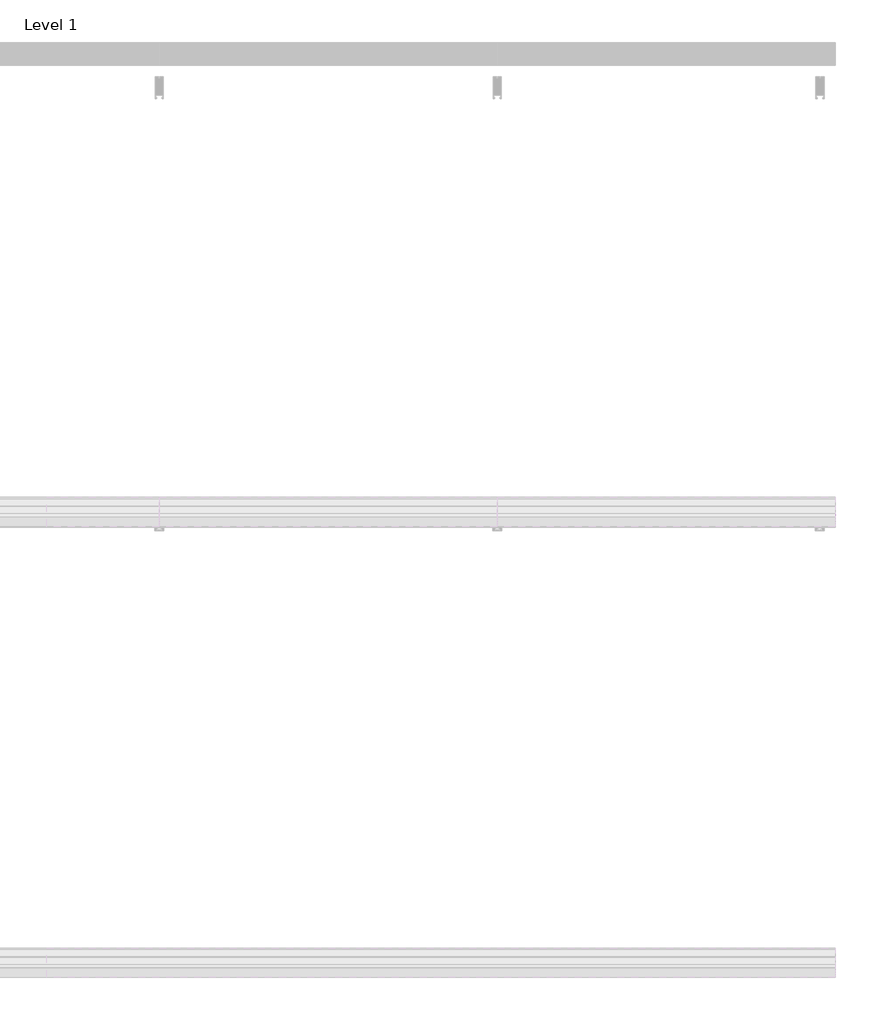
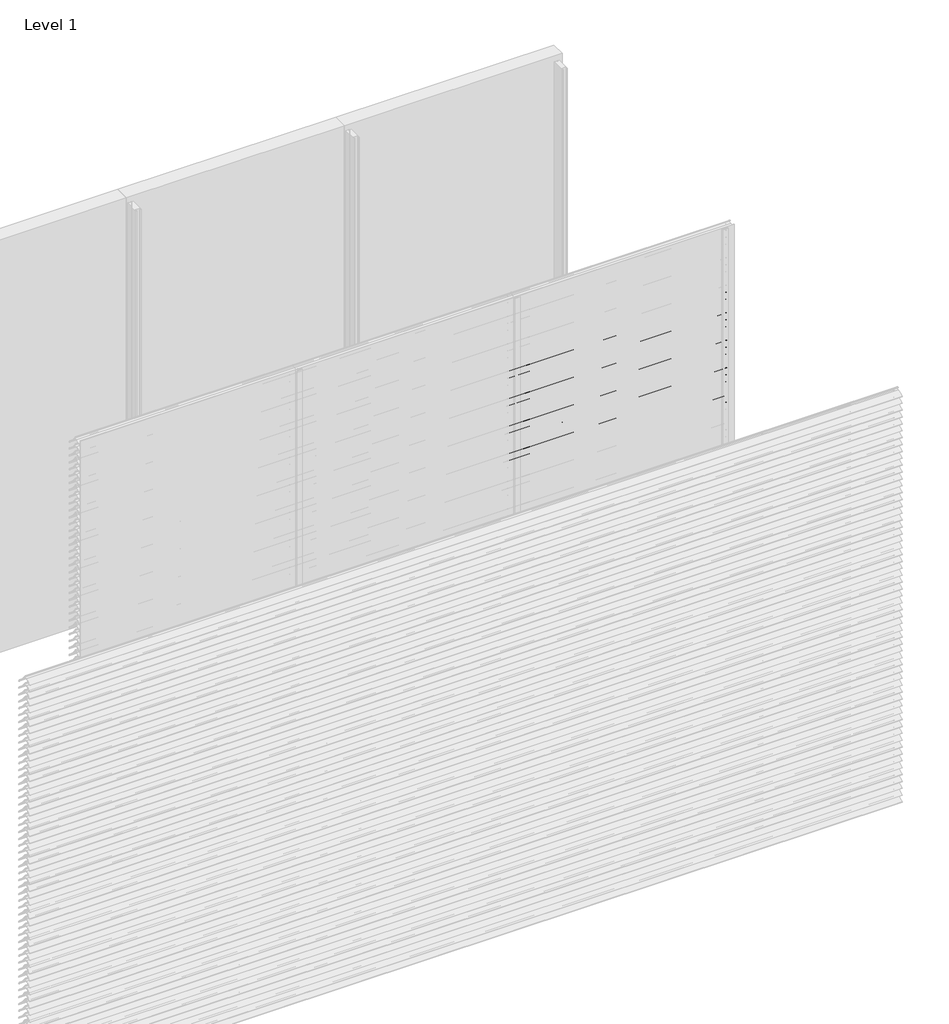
# One storey, part 103 of 173: 17 proxies.
"""IFC4 building model written with IfcOpenShell, lengths in millimetres."""

from ifc_helpers import new_model, si_unit, point, frame, frame_2d, origin, place, context, project, spatial, polyline, circle_curve, trimmed, segment, composite_curve, outline, extrude, element, save

model = new_model("IFC4")

# Units and contexts
model_context = context("Model", 3, world=origin())
ifc_project = project(units=[si_unit("LENGTHUNIT", "METRE", prefix="MILLI")], contexts=[model_context])

# Site, building, storey
site = spatial("IfcSite", under=ifc_project)
building = spatial("IfcBuilding", under=site)
storey = spatial("IfcBuildingStorey", under=building, Name="Level 1", Elevation=0.0)

# Proxies
placement = place(None, origin())
element("IfcBuildingElementProxy", 1, Name="Wall Sweeps", at=placement, inside=storey, context=model_context, shape_type="SweptSolid", body=[
    extrude(outline(composite_curve([segment(polyline([(-23998.0, 2459.1474905), (-23998.0, 2461.6227417)]), True, "CONTINUOUS"), segment(trimmed(circle_curve(frame_2d((-23951.2682172, 2416.2200208)), 65.1557103), [point((-23998.0, 2461.6227417))], [point((-23954.4014323, 2481.3003524))], False, "CARTESIAN"), True, "CONTINUOUS"), segment(polyline([(-23954.4014323, 2481.3003524), (-23934.8315836, 2481.3003524)]), True, "CONTINUOUS"), segment(trimmed(circle_curve(frame_2d((-23732.7329489, 2628.5533172)), 250.0545817), [point((-23934.8315836, 2481.3003524))], [point((-23941.4452143, 2490.8344583))], False, "CARTESIAN"), True, "CONTINUOUS"), segment(trimmed(circle_curve(frame_2d((-23953.2981792, 2485.1737835)), 13.1352966), [point((-23941.4452143, 2490.8344583))], [point((-23953.8171475, 2498.298824))], True, "CARTESIAN"), True, "CONTINUOUS"), segment(polyline([(-23953.8171475, 2498.298824), (-23953.8171475, 2500.0)]), True, "CONTINUOUS"), segment(trimmed(circle_curve(frame_2d((-23953.2981792, 2485.1737835)), 14.8352966), [point((-23953.8171475, 2500.0))], [point((-23939.9637661, 2491.6760487))], False, "CARTESIAN"), True, "CONTINUOUS"), segment(trimmed(circle_curve(frame_2d((-23732.7329489, 2628.5533172)), 248.3545817), [point((-23939.9637661, 2491.6760487))], [point((-23873.8787895, 2424.2059416))], True, "CARTESIAN"), True, "CONTINUOUS"), segment(trimmed(circle_curve(frame_2d((-23883.8147537, 2411.6649442)), 16.0), [point((-23873.8787895, 2424.2059416))], [point((-23867.8648347, 2410.4))], False, "CARTESIAN"), True, "CONTINUOUS"), segment(polyline([(-23867.8648347, 2410.4), (-23869.6712069, 2410.4)]), True, "CONTINUOUS"), segment(trimmed(circle_curve(frame_2d((-23883.8147537, 2411.6649442)), 14.2), [point((-23869.6712069, 2410.4))], [point((-23874.9518628, 2422.7594998))], True, "CARTESIAN"), True, "CONTINUOUS"), segment(trimmed(circle_curve(frame_2d((-23732.7329489, 2628.5533172)), 250.1545817), [point((-23874.9518628, 2422.7594998))], [point((-23933.7064024, 2479.6003524))], False, "CARTESIAN"), True, "CONTINUOUS"), segment(polyline([(-23933.7064024, 2479.6003524), (-23954.3602632, 2479.6003524)]), True, "CONTINUOUS"), segment(trimmed(circle_curve(frame_2d((-23951.2682172, 2416.2200208)), 63.4557103), [point((-23954.3602632, 2479.6003524))], [point((-23998.0, 2459.1474905))], True, "CARTESIAN"), True, "CONTINUOUS")], self_intersect=False)), frame((4500.0, 0.0, 0.0), z_axis=(1.0, 0.0, 0.0), x_axis=(0.0, 1.0, 0.0)), (0.0, 0.0, 1.0), 1500.0),
])
element("IfcBuildingElementProxy", 2, Name="Wall Sweeps", at=placement, inside=storey, context=model_context, shape_type="SweptSolid", body=[
    extrude(outline(composite_curve([segment(polyline([(-23998.0, 2409.1474905), (-23998.0, 2411.6227417)]), True, "CONTINUOUS"), segment(trimmed(circle_curve(frame_2d((-23951.2682172, 2366.2200208)), 65.1557103), [point((-23998.0, 2411.6227417))], [point((-23954.4014323, 2431.3003524))], False, "CARTESIAN"), True, "CONTINUOUS"), segment(polyline([(-23954.4014323, 2431.3003524), (-23934.8315836, 2431.3003524)]), True, "CONTINUOUS"), segment(trimmed(circle_curve(frame_2d((-23732.7329489, 2578.5533172)), 250.0545817), [point((-23934.8315836, 2431.3003524))], [point((-23941.4452143, 2440.8344583))], False, "CARTESIAN"), True, "CONTINUOUS"), segment(trimmed(circle_curve(frame_2d((-23953.2981792, 2435.1737835)), 13.1352966), [point((-23941.4452143, 2440.8344583))], [point((-23953.8171475, 2448.298824))], True, "CARTESIAN"), True, "CONTINUOUS"), segment(polyline([(-23953.8171475, 2448.298824), (-23953.8171475, 2450.0)]), True, "CONTINUOUS"), segment(trimmed(circle_curve(frame_2d((-23953.2981792, 2435.1737835)), 14.8352966), [point((-23953.8171475, 2450.0))], [point((-23939.9637661, 2441.6760487))], False, "CARTESIAN"), True, "CONTINUOUS"), segment(trimmed(circle_curve(frame_2d((-23732.7329489, 2578.5533172)), 248.3545817), [point((-23939.9637661, 2441.6760487))], [point((-23873.8787895, 2374.2059416))], True, "CARTESIAN"), True, "CONTINUOUS"), segment(trimmed(circle_curve(frame_2d((-23883.8147537, 2361.6649442)), 16.0), [point((-23873.8787895, 2374.2059416))], [point((-23867.8648347, 2360.4))], False, "CARTESIAN"), True, "CONTINUOUS"), segment(polyline([(-23867.8648347, 2360.4), (-23869.6712069, 2360.4)]), True, "CONTINUOUS"), segment(trimmed(circle_curve(frame_2d((-23883.8147537, 2361.6649442)), 14.2), [point((-23869.6712069, 2360.4))], [point((-23874.9518628, 2372.7594998))], True, "CARTESIAN"), True, "CONTINUOUS"), segment(trimmed(circle_curve(frame_2d((-23732.7329489, 2578.5533172)), 250.1545817), [point((-23874.9518628, 2372.7594998))], [point((-23933.7064024, 2429.6003524))], False, "CARTESIAN"), True, "CONTINUOUS"), segment(polyline([(-23933.7064024, 2429.6003524), (-23954.3602632, 2429.6003524)]), True, "CONTINUOUS"), segment(trimmed(circle_curve(frame_2d((-23951.2682172, 2366.2200208)), 63.4557103), [point((-23954.3602632, 2429.6003524))], [point((-23998.0, 2409.1474905))], True, "CARTESIAN"), True, "CONTINUOUS")], self_intersect=False)), frame((4500.0, 0.0, 0.0), z_axis=(1.0, 0.0, 0.0), x_axis=(0.0, 1.0, 0.0)), (0.0, 0.0, 1.0), 1500.0),
])
element("IfcBuildingElementProxy", 3, Name="Wall Sweeps", at=placement, inside=storey, context=model_context, shape_type="SweptSolid", body=[
    extrude(outline(composite_curve([segment(polyline([(-23998.0, 2359.1474905), (-23998.0, 2361.6227417)]), True, "CONTINUOUS"), segment(trimmed(circle_curve(frame_2d((-23951.2682172, 2316.2200208)), 65.1557103), [point((-23998.0, 2361.6227417))], [point((-23954.4014323, 2381.3003524))], False, "CARTESIAN"), True, "CONTINUOUS"), segment(polyline([(-23954.4014323, 2381.3003524), (-23934.8315836, 2381.3003524)]), True, "CONTINUOUS"), segment(trimmed(circle_curve(frame_2d((-23732.7329489, 2528.5533172)), 250.0545817), [point((-23934.8315836, 2381.3003524))], [point((-23941.4452143, 2390.8344583))], False, "CARTESIAN"), True, "CONTINUOUS"), segment(trimmed(circle_curve(frame_2d((-23953.2981792, 2385.1737835)), 13.1352966), [point((-23941.4452143, 2390.8344583))], [point((-23953.8171475, 2398.298824))], True, "CARTESIAN"), True, "CONTINUOUS"), segment(polyline([(-23953.8171475, 2398.298824), (-23953.8171475, 2400.0)]), True, "CONTINUOUS"), segment(trimmed(circle_curve(frame_2d((-23953.2981792, 2385.1737835)), 14.8352966), [point((-23953.8171475, 2400.0))], [point((-23939.9637661, 2391.6760487))], False, "CARTESIAN"), True, "CONTINUOUS"), segment(trimmed(circle_curve(frame_2d((-23732.7329489, 2528.5533172)), 248.3545817), [point((-23939.9637661, 2391.6760487))], [point((-23873.8787895, 2324.2059416))], True, "CARTESIAN"), True, "CONTINUOUS"), segment(trimmed(circle_curve(frame_2d((-23883.8147537, 2311.6649442)), 16.0), [point((-23873.8787895, 2324.2059416))], [point((-23867.8648347, 2310.4))], False, "CARTESIAN"), True, "CONTINUOUS"), segment(polyline([(-23867.8648347, 2310.4), (-23869.6712069, 2310.4)]), True, "CONTINUOUS"), segment(trimmed(circle_curve(frame_2d((-23883.8147537, 2311.6649442)), 14.2), [point((-23869.6712069, 2310.4))], [point((-23874.9518628, 2322.7594998))], True, "CARTESIAN"), True, "CONTINUOUS"), segment(trimmed(circle_curve(frame_2d((-23732.7329489, 2528.5533172)), 250.1545817), [point((-23874.9518628, 2322.7594998))], [point((-23933.7064024, 2379.6003524))], False, "CARTESIAN"), True, "CONTINUOUS"), segment(polyline([(-23933.7064024, 2379.6003524), (-23954.3602632, 2379.6003524)]), True, "CONTINUOUS"), segment(trimmed(circle_curve(frame_2d((-23951.2682172, 2316.2200208)), 63.4557103), [point((-23954.3602632, 2379.6003524))], [point((-23998.0, 2359.1474905))], True, "CARTESIAN"), True, "CONTINUOUS")], self_intersect=False)), frame((4500.0, 0.0, 0.0), z_axis=(1.0, 0.0, 0.0), x_axis=(0.0, 1.0, 0.0)), (0.0, 0.0, 1.0), 1500.0),
])
element("IfcBuildingElementProxy", 4, Name="Wall Sweeps", at=placement, inside=storey, context=model_context, shape_type="SweptSolid", body=[
    extrude(outline(composite_curve([segment(polyline([(-23998.0, 2309.1474905), (-23998.0, 2311.6227417)]), True, "CONTINUOUS"), segment(trimmed(circle_curve(frame_2d((-23951.2682172, 2266.2200208)), 65.1557103), [point((-23998.0, 2311.6227417))], [point((-23954.4014323, 2331.3003524))], False, "CARTESIAN"), True, "CONTINUOUS"), segment(polyline([(-23954.4014323, 2331.3003524), (-23934.8315836, 2331.3003524)]), True, "CONTINUOUS"), segment(trimmed(circle_curve(frame_2d((-23732.7329489, 2478.5533172)), 250.0545817), [point((-23934.8315836, 2331.3003524))], [point((-23941.4452143, 2340.8344583))], False, "CARTESIAN"), True, "CONTINUOUS"), segment(trimmed(circle_curve(frame_2d((-23953.2981792, 2335.1737835)), 13.1352966), [point((-23941.4452143, 2340.8344583))], [point((-23953.8171475, 2348.298824))], True, "CARTESIAN"), True, "CONTINUOUS"), segment(polyline([(-23953.8171475, 2348.298824), (-23953.8171475, 2350.0)]), True, "CONTINUOUS"), segment(trimmed(circle_curve(frame_2d((-23953.2981792, 2335.1737835)), 14.8352966), [point((-23953.8171475, 2350.0))], [point((-23939.9637661, 2341.6760487))], False, "CARTESIAN"), True, "CONTINUOUS"), segment(trimmed(circle_curve(frame_2d((-23732.7329489, 2478.5533172)), 248.3545817), [point((-23939.9637661, 2341.6760487))], [point((-23873.8787895, 2274.2059416))], True, "CARTESIAN"), True, "CONTINUOUS"), segment(trimmed(circle_curve(frame_2d((-23883.8147537, 2261.6649442)), 16.0), [point((-23873.8787895, 2274.2059416))], [point((-23867.8648347, 2260.4))], False, "CARTESIAN"), True, "CONTINUOUS"), segment(polyline([(-23867.8648347, 2260.4), (-23869.6712069, 2260.4)]), True, "CONTINUOUS"), segment(trimmed(circle_curve(frame_2d((-23883.8147537, 2261.6649442)), 14.2), [point((-23869.6712069, 2260.4))], [point((-23874.9518628, 2272.7594998))], True, "CARTESIAN"), True, "CONTINUOUS"), segment(trimmed(circle_curve(frame_2d((-23732.7329489, 2478.5533172)), 250.1545817), [point((-23874.9518628, 2272.7594998))], [point((-23933.7064024, 2329.6003524))], False, "CARTESIAN"), True, "CONTINUOUS"), segment(polyline([(-23933.7064024, 2329.6003524), (-23954.3602632, 2329.6003524)]), True, "CONTINUOUS"), segment(trimmed(circle_curve(frame_2d((-23951.2682172, 2266.2200208)), 63.4557103), [point((-23954.3602632, 2329.6003524))], [point((-23998.0, 2309.1474905))], True, "CARTESIAN"), True, "CONTINUOUS")], self_intersect=False)), frame((4500.0, 0.0, 0.0), z_axis=(1.0, 0.0, 0.0), x_axis=(0.0, 1.0, 0.0)), (0.0, 0.0, 1.0), 1500.0),
])
element("IfcBuildingElementProxy", 5, Name="Wall Sweeps", at=placement, inside=storey, context=model_context, shape_type="SweptSolid", body=[
    extrude(outline(composite_curve([segment(polyline([(-23998.0, 2259.1474905), (-23998.0, 2261.6227417)]), True, "CONTINUOUS"), segment(trimmed(circle_curve(frame_2d((-23951.2682172, 2216.2200208)), 65.1557103), [point((-23998.0, 2261.6227417))], [point((-23954.4014323, 2281.3003524))], False, "CARTESIAN"), True, "CONTINUOUS"), segment(polyline([(-23954.4014323, 2281.3003524), (-23934.8315836, 2281.3003524)]), True, "CONTINUOUS"), segment(trimmed(circle_curve(frame_2d((-23732.7329489, 2428.5533172)), 250.0545817), [point((-23934.8315836, 2281.3003524))], [point((-23941.4452143, 2290.8344583))], False, "CARTESIAN"), True, "CONTINUOUS"), segment(trimmed(circle_curve(frame_2d((-23953.2981792, 2285.1737835)), 13.1352966), [point((-23941.4452143, 2290.8344583))], [point((-23953.8171475, 2298.298824))], True, "CARTESIAN"), True, "CONTINUOUS"), segment(polyline([(-23953.8171475, 2298.298824), (-23953.8171475, 2300.0)]), True, "CONTINUOUS"), segment(trimmed(circle_curve(frame_2d((-23953.2981792, 2285.1737835)), 14.8352966), [point((-23953.8171475, 2300.0))], [point((-23939.9637661, 2291.6760487))], False, "CARTESIAN"), True, "CONTINUOUS"), segment(trimmed(circle_curve(frame_2d((-23732.7329489, 2428.5533172)), 248.3545817), [point((-23939.9637661, 2291.6760487))], [point((-23873.8787895, 2224.2059416))], True, "CARTESIAN"), True, "CONTINUOUS"), segment(trimmed(circle_curve(frame_2d((-23883.8147537, 2211.6649442)), 16.0), [point((-23873.8787895, 2224.2059416))], [point((-23867.8648347, 2210.4))], False, "CARTESIAN"), True, "CONTINUOUS"), segment(polyline([(-23867.8648347, 2210.4), (-23869.6712069, 2210.4)]), True, "CONTINUOUS"), segment(trimmed(circle_curve(frame_2d((-23883.8147537, 2211.6649442)), 14.2), [point((-23869.6712069, 2210.4))], [point((-23874.9518628, 2222.7594998))], True, "CARTESIAN"), True, "CONTINUOUS"), segment(trimmed(circle_curve(frame_2d((-23732.7329489, 2428.5533172)), 250.1545817), [point((-23874.9518628, 2222.7594998))], [point((-23933.7064024, 2279.6003524))], False, "CARTESIAN"), True, "CONTINUOUS"), segment(polyline([(-23933.7064024, 2279.6003524), (-23954.3602632, 2279.6003524)]), True, "CONTINUOUS"), segment(trimmed(circle_curve(frame_2d((-23951.2682172, 2216.2200208)), 63.4557103), [point((-23954.3602632, 2279.6003524))], [point((-23998.0, 2259.1474905))], True, "CARTESIAN"), True, "CONTINUOUS")], self_intersect=False)), frame((4500.0, 0.0, 0.0), z_axis=(1.0, 0.0, 0.0), x_axis=(0.0, 1.0, 0.0)), (0.0, 0.0, 1.0), 1500.0),
])
element("IfcBuildingElementProxy", 6, Name="Wall Sweeps", at=placement, inside=storey, context=model_context, shape_type="SweptSolid", body=[
    extrude(outline(composite_curve([segment(polyline([(-23998.0, 2209.1474905), (-23998.0, 2211.6227417)]), True, "CONTINUOUS"), segment(trimmed(circle_curve(frame_2d((-23951.2682172, 2166.2200208)), 65.1557103), [point((-23998.0, 2211.6227417))], [point((-23954.4014323, 2231.3003524))], False, "CARTESIAN"), True, "CONTINUOUS"), segment(polyline([(-23954.4014323, 2231.3003524), (-23934.8315836, 2231.3003524)]), True, "CONTINUOUS"), segment(trimmed(circle_curve(frame_2d((-23732.7329489, 2378.5533172)), 250.0545817), [point((-23934.8315836, 2231.3003524))], [point((-23941.4452143, 2240.8344583))], False, "CARTESIAN"), True, "CONTINUOUS"), segment(trimmed(circle_curve(frame_2d((-23953.2981792, 2235.1737835)), 13.1352966), [point((-23941.4452143, 2240.8344583))], [point((-23953.8171475, 2248.298824))], True, "CARTESIAN"), True, "CONTINUOUS"), segment(polyline([(-23953.8171475, 2248.298824), (-23953.8171475, 2250.0)]), True, "CONTINUOUS"), segment(trimmed(circle_curve(frame_2d((-23953.2981792, 2235.1737835)), 14.8352966), [point((-23953.8171475, 2250.0))], [point((-23939.9637661, 2241.6760487))], False, "CARTESIAN"), True, "CONTINUOUS"), segment(trimmed(circle_curve(frame_2d((-23732.7329489, 2378.5533172)), 248.3545817), [point((-23939.9637661, 2241.6760487))], [point((-23873.8787895, 2174.2059416))], True, "CARTESIAN"), True, "CONTINUOUS"), segment(trimmed(circle_curve(frame_2d((-23883.8147537, 2161.6649442)), 16.0), [point((-23873.8787895, 2174.2059416))], [point((-23867.8648347, 2160.4))], False, "CARTESIAN"), True, "CONTINUOUS"), segment(polyline([(-23867.8648347, 2160.4), (-23869.6712069, 2160.4)]), True, "CONTINUOUS"), segment(trimmed(circle_curve(frame_2d((-23883.8147537, 2161.6649442)), 14.2), [point((-23869.6712069, 2160.4))], [point((-23874.9518628, 2172.7594998))], True, "CARTESIAN"), True, "CONTINUOUS"), segment(trimmed(circle_curve(frame_2d((-23732.7329489, 2378.5533172)), 250.1545817), [point((-23874.9518628, 2172.7594998))], [point((-23933.7064024, 2229.6003524))], False, "CARTESIAN"), True, "CONTINUOUS"), segment(polyline([(-23933.7064024, 2229.6003524), (-23954.3602632, 2229.6003524)]), True, "CONTINUOUS"), segment(trimmed(circle_curve(frame_2d((-23951.2682172, 2166.2200208)), 63.4557103), [point((-23954.3602632, 2229.6003524))], [point((-23998.0, 2209.1474905))], True, "CARTESIAN"), True, "CONTINUOUS")], self_intersect=False)), frame((4500.0, 0.0, 0.0), z_axis=(1.0, 0.0, 0.0), x_axis=(0.0, 1.0, 0.0)), (0.0, 0.0, 1.0), 1500.0),
])
element("IfcBuildingElementProxy", 7, Name="Wall Sweeps", at=placement, inside=storey, context=model_context, shape_type="SweptSolid", body=[
    extrude(outline(composite_curve([segment(polyline([(-23998.0, 2159.1474905), (-23998.0, 2161.6227417)]), True, "CONTINUOUS"), segment(trimmed(circle_curve(frame_2d((-23951.2682172, 2116.2200208)), 65.1557103), [point((-23998.0, 2161.6227417))], [point((-23954.4014323, 2181.3003524))], False, "CARTESIAN"), True, "CONTINUOUS"), segment(polyline([(-23954.4014323, 2181.3003524), (-23934.8315836, 2181.3003524)]), True, "CONTINUOUS"), segment(trimmed(circle_curve(frame_2d((-23732.7329489, 2328.5533172)), 250.0545817), [point((-23934.8315836, 2181.3003524))], [point((-23941.4452143, 2190.8344583))], False, "CARTESIAN"), True, "CONTINUOUS"), segment(trimmed(circle_curve(frame_2d((-23953.2981792, 2185.1737835)), 13.1352966), [point((-23941.4452143, 2190.8344583))], [point((-23953.8171475, 2198.298824))], True, "CARTESIAN"), True, "CONTINUOUS"), segment(polyline([(-23953.8171475, 2198.298824), (-23953.8171475, 2200.0)]), True, "CONTINUOUS"), segment(trimmed(circle_curve(frame_2d((-23953.2981792, 2185.1737835)), 14.8352966), [point((-23953.8171475, 2200.0))], [point((-23939.9637661, 2191.6760487))], False, "CARTESIAN"), True, "CONTINUOUS"), segment(trimmed(circle_curve(frame_2d((-23732.7329489, 2328.5533172)), 248.3545817), [point((-23939.9637661, 2191.6760487))], [point((-23873.8787895, 2124.2059416))], True, "CARTESIAN"), True, "CONTINUOUS"), segment(trimmed(circle_curve(frame_2d((-23883.8147537, 2111.6649442)), 16.0), [point((-23873.8787895, 2124.2059416))], [point((-23867.8648347, 2110.4))], False, "CARTESIAN"), True, "CONTINUOUS"), segment(polyline([(-23867.8648347, 2110.4), (-23869.6712069, 2110.4)]), True, "CONTINUOUS"), segment(trimmed(circle_curve(frame_2d((-23883.8147537, 2111.6649442)), 14.2), [point((-23869.6712069, 2110.4))], [point((-23874.9518628, 2122.7594998))], True, "CARTESIAN"), True, "CONTINUOUS"), segment(trimmed(circle_curve(frame_2d((-23732.7329489, 2328.5533172)), 250.1545817), [point((-23874.9518628, 2122.7594998))], [point((-23933.7064024, 2179.6003524))], False, "CARTESIAN"), True, "CONTINUOUS"), segment(polyline([(-23933.7064024, 2179.6003524), (-23954.3602632, 2179.6003524)]), True, "CONTINUOUS"), segment(trimmed(circle_curve(frame_2d((-23951.2682172, 2116.2200208)), 63.4557103), [point((-23954.3602632, 2179.6003524))], [point((-23998.0, 2159.1474905))], True, "CARTESIAN"), True, "CONTINUOUS")], self_intersect=False)), frame((4500.0, 0.0, 0.0), z_axis=(1.0, 0.0, 0.0), x_axis=(0.0, 1.0, 0.0)), (0.0, 0.0, 1.0), 1500.0),
])
element("IfcBuildingElementProxy", 8, Name="Wall Sweeps", at=placement, inside=storey, context=model_context, shape_type="SweptSolid", body=[
    extrude(outline(composite_curve([segment(polyline([(-23998.0, 2109.1474905), (-23998.0, 2111.6227417)]), True, "CONTINUOUS"), segment(trimmed(circle_curve(frame_2d((-23951.2682172, 2066.2200208)), 65.1557103), [point((-23998.0, 2111.6227417))], [point((-23954.4014323, 2131.3003524))], False, "CARTESIAN"), True, "CONTINUOUS"), segment(polyline([(-23954.4014323, 2131.3003524), (-23934.8315836, 2131.3003524)]), True, "CONTINUOUS"), segment(trimmed(circle_curve(frame_2d((-23732.7329489, 2278.5533172)), 250.0545817), [point((-23934.8315836, 2131.3003524))], [point((-23941.4452143, 2140.8344583))], False, "CARTESIAN"), True, "CONTINUOUS"), segment(trimmed(circle_curve(frame_2d((-23953.2981792, 2135.1737835)), 13.1352966), [point((-23941.4452143, 2140.8344583))], [point((-23953.8171475, 2148.298824))], True, "CARTESIAN"), True, "CONTINUOUS"), segment(polyline([(-23953.8171475, 2148.298824), (-23953.8171475, 2150.0)]), True, "CONTINUOUS"), segment(trimmed(circle_curve(frame_2d((-23953.2981792, 2135.1737835)), 14.8352966), [point((-23953.8171475, 2150.0))], [point((-23939.9637661, 2141.6760487))], False, "CARTESIAN"), True, "CONTINUOUS"), segment(trimmed(circle_curve(frame_2d((-23732.7329489, 2278.5533172)), 248.3545817), [point((-23939.9637661, 2141.6760487))], [point((-23873.8787895, 2074.2059416))], True, "CARTESIAN"), True, "CONTINUOUS"), segment(trimmed(circle_curve(frame_2d((-23883.8147537, 2061.6649442)), 16.0), [point((-23873.8787895, 2074.2059416))], [point((-23867.8648347, 2060.4))], False, "CARTESIAN"), True, "CONTINUOUS"), segment(polyline([(-23867.8648347, 2060.4), (-23869.6712069, 2060.4)]), True, "CONTINUOUS"), segment(trimmed(circle_curve(frame_2d((-23883.8147537, 2061.6649442)), 14.2), [point((-23869.6712069, 2060.4))], [point((-23874.9518628, 2072.7594998))], True, "CARTESIAN"), True, "CONTINUOUS"), segment(trimmed(circle_curve(frame_2d((-23732.7329489, 2278.5533172)), 250.1545817), [point((-23874.9518628, 2072.7594998))], [point((-23933.7064024, 2129.6003524))], False, "CARTESIAN"), True, "CONTINUOUS"), segment(polyline([(-23933.7064024, 2129.6003524), (-23954.3602632, 2129.6003524)]), True, "CONTINUOUS"), segment(trimmed(circle_curve(frame_2d((-23951.2682172, 2066.2200208)), 63.4557103), [point((-23954.3602632, 2129.6003524))], [point((-23998.0, 2109.1474905))], True, "CARTESIAN"), True, "CONTINUOUS")], self_intersect=False)), frame((4500.0, 0.0, 0.0), z_axis=(1.0, 0.0, 0.0), x_axis=(0.0, 1.0, 0.0)), (0.0, 0.0, 1.0), 1500.0),
])
element("IfcBuildingElementProxy", 9, Name="Wall Sweeps", at=placement, inside=storey, context=model_context, shape_type="SweptSolid", body=[
    extrude(outline(composite_curve([segment(polyline([(-23998.0, 2059.1474905), (-23998.0, 2061.6227417)]), True, "CONTINUOUS"), segment(trimmed(circle_curve(frame_2d((-23951.2682172, 2016.2200208)), 65.1557103), [point((-23998.0, 2061.6227417))], [point((-23954.4014323, 2081.3003524))], False, "CARTESIAN"), True, "CONTINUOUS"), segment(polyline([(-23954.4014323, 2081.3003524), (-23934.8315836, 2081.3003524)]), True, "CONTINUOUS"), segment(trimmed(circle_curve(frame_2d((-23732.7329489, 2228.5533172)), 250.0545817), [point((-23934.8315836, 2081.3003524))], [point((-23941.4452143, 2090.8344583))], False, "CARTESIAN"), True, "CONTINUOUS"), segment(trimmed(circle_curve(frame_2d((-23953.2981792, 2085.1737835)), 13.1352966), [point((-23941.4452143, 2090.8344583))], [point((-23953.8171475, 2098.298824))], True, "CARTESIAN"), True, "CONTINUOUS"), segment(polyline([(-23953.8171475, 2098.298824), (-23953.8171475, 2100.0)]), True, "CONTINUOUS"), segment(trimmed(circle_curve(frame_2d((-23953.2981792, 2085.1737835)), 14.8352966), [point((-23953.8171475, 2100.0))], [point((-23939.9637661, 2091.6760487))], False, "CARTESIAN"), True, "CONTINUOUS"), segment(trimmed(circle_curve(frame_2d((-23732.7329489, 2228.5533172)), 248.3545817), [point((-23939.9637661, 2091.6760487))], [point((-23873.8787895, 2024.2059416))], True, "CARTESIAN"), True, "CONTINUOUS"), segment(trimmed(circle_curve(frame_2d((-23883.8147537, 2011.6649442)), 16.0), [point((-23873.8787895, 2024.2059416))], [point((-23867.8648347, 2010.4))], False, "CARTESIAN"), True, "CONTINUOUS"), segment(polyline([(-23867.8648347, 2010.4), (-23869.6712069, 2010.4)]), True, "CONTINUOUS"), segment(trimmed(circle_curve(frame_2d((-23883.8147537, 2011.6649442)), 14.2), [point((-23869.6712069, 2010.4))], [point((-23874.9518628, 2022.7594998))], True, "CARTESIAN"), True, "CONTINUOUS"), segment(trimmed(circle_curve(frame_2d((-23732.7329489, 2228.5533172)), 250.1545817), [point((-23874.9518628, 2022.7594998))], [point((-23933.7064024, 2079.6003524))], False, "CARTESIAN"), True, "CONTINUOUS"), segment(polyline([(-23933.7064024, 2079.6003524), (-23954.3602632, 2079.6003524)]), True, "CONTINUOUS"), segment(trimmed(circle_curve(frame_2d((-23951.2682172, 2016.2200208)), 63.4557103), [point((-23954.3602632, 2079.6003524))], [point((-23998.0, 2059.1474905))], True, "CARTESIAN"), True, "CONTINUOUS")], self_intersect=False)), frame((4500.0, 0.0, 0.0), z_axis=(1.0, 0.0, 0.0), x_axis=(0.0, 1.0, 0.0)), (0.0, 0.0, 1.0), 1500.0),
])
element("IfcBuildingElementProxy", 10, Name="Wall Sweeps", at=placement, inside=storey, context=model_context, shape_type="SweptSolid", body=[
    extrude(outline(composite_curve([segment(polyline([(-23998.0, 2009.1474905), (-23998.0, 2011.6227417)]), True, "CONTINUOUS"), segment(trimmed(circle_curve(frame_2d((-23951.2682172, 1966.2200208)), 65.1557103), [point((-23998.0, 2011.6227417))], [point((-23954.4014323, 2031.3003524))], False, "CARTESIAN"), True, "CONTINUOUS"), segment(polyline([(-23954.4014323, 2031.3003524), (-23934.8315836, 2031.3003524)]), True, "CONTINUOUS"), segment(trimmed(circle_curve(frame_2d((-23732.7329489, 2178.5533172)), 250.0545817), [point((-23934.8315836, 2031.3003524))], [point((-23941.4452143, 2040.8344583))], False, "CARTESIAN"), True, "CONTINUOUS"), segment(trimmed(circle_curve(frame_2d((-23953.2981792, 2035.1737835)), 13.1352966), [point((-23941.4452143, 2040.8344583))], [point((-23953.8171475, 2048.298824))], True, "CARTESIAN"), True, "CONTINUOUS"), segment(polyline([(-23953.8171475, 2048.298824), (-23953.8171475, 2050.0)]), True, "CONTINUOUS"), segment(trimmed(circle_curve(frame_2d((-23953.2981792, 2035.1737835)), 14.8352966), [point((-23953.8171475, 2050.0))], [point((-23939.9637661, 2041.6760487))], False, "CARTESIAN"), True, "CONTINUOUS"), segment(trimmed(circle_curve(frame_2d((-23732.7329489, 2178.5533172)), 248.3545817), [point((-23939.9637661, 2041.6760487))], [point((-23873.8787895, 1974.2059416))], True, "CARTESIAN"), True, "CONTINUOUS"), segment(trimmed(circle_curve(frame_2d((-23883.8147537, 1961.6649442)), 16.0), [point((-23873.8787895, 1974.2059416))], [point((-23867.8648347, 1960.4))], False, "CARTESIAN"), True, "CONTINUOUS"), segment(polyline([(-23867.8648347, 1960.4), (-23869.6712069, 1960.4)]), True, "CONTINUOUS"), segment(trimmed(circle_curve(frame_2d((-23883.8147537, 1961.6649442)), 14.2), [point((-23869.6712069, 1960.4))], [point((-23874.9518628, 1972.7594998))], True, "CARTESIAN"), True, "CONTINUOUS"), segment(trimmed(circle_curve(frame_2d((-23732.7329489, 2178.5533172)), 250.1545817), [point((-23874.9518628, 1972.7594998))], [point((-23933.7064024, 2029.6003524))], False, "CARTESIAN"), True, "CONTINUOUS"), segment(polyline([(-23933.7064024, 2029.6003524), (-23954.3602632, 2029.6003524)]), True, "CONTINUOUS"), segment(trimmed(circle_curve(frame_2d((-23951.2682172, 1966.2200208)), 63.4557103), [point((-23954.3602632, 2029.6003524))], [point((-23998.0, 2009.1474905))], True, "CARTESIAN"), True, "CONTINUOUS")], self_intersect=False)), frame((4500.0, 0.0, 0.0), z_axis=(1.0, 0.0, 0.0), x_axis=(0.0, 1.0, 0.0)), (0.0, 0.0, 1.0), 1500.0),
])
element("IfcBuildingElementProxy", 11, Name="Wall Sweeps", at=placement, inside=storey, context=model_context, shape_type="SweptSolid", body=[
    extrude(outline(composite_curve([segment(polyline([(-23998.0, 1959.1474905), (-23998.0, 1961.6227417)]), True, "CONTINUOUS"), segment(trimmed(circle_curve(frame_2d((-23951.2682172, 1916.2200208)), 65.1557103), [point((-23998.0, 1961.6227417))], [point((-23954.4014323, 1981.3003524))], False, "CARTESIAN"), True, "CONTINUOUS"), segment(polyline([(-23954.4014323, 1981.3003524), (-23934.8315836, 1981.3003524)]), True, "CONTINUOUS"), segment(trimmed(circle_curve(frame_2d((-23732.7329489, 2128.5533172)), 250.0545817), [point((-23934.8315836, 1981.3003524))], [point((-23941.4452143, 1990.8344583))], False, "CARTESIAN"), True, "CONTINUOUS"), segment(trimmed(circle_curve(frame_2d((-23953.2981792, 1985.1737835)), 13.1352966), [point((-23941.4452143, 1990.8344583))], [point((-23953.8171475, 1998.298824))], True, "CARTESIAN"), True, "CONTINUOUS"), segment(polyline([(-23953.8171475, 1998.298824), (-23953.8171475, 2000.0)]), True, "CONTINUOUS"), segment(trimmed(circle_curve(frame_2d((-23953.2981792, 1985.1737835)), 14.8352966), [point((-23953.8171475, 2000.0))], [point((-23939.9637661, 1991.6760487))], False, "CARTESIAN"), True, "CONTINUOUS"), segment(trimmed(circle_curve(frame_2d((-23732.7329489, 2128.5533172)), 248.3545817), [point((-23939.9637661, 1991.6760487))], [point((-23873.8787895, 1924.2059416))], True, "CARTESIAN"), True, "CONTINUOUS"), segment(trimmed(circle_curve(frame_2d((-23883.8147537, 1911.6649442)), 16.0), [point((-23873.8787895, 1924.2059416))], [point((-23867.8648347, 1910.4))], False, "CARTESIAN"), True, "CONTINUOUS"), segment(polyline([(-23867.8648347, 1910.4), (-23869.6712069, 1910.4)]), True, "CONTINUOUS"), segment(trimmed(circle_curve(frame_2d((-23883.8147537, 1911.6649442)), 14.2), [point((-23869.6712069, 1910.4))], [point((-23874.9518628, 1922.7594998))], True, "CARTESIAN"), True, "CONTINUOUS"), segment(trimmed(circle_curve(frame_2d((-23732.7329489, 2128.5533172)), 250.1545817), [point((-23874.9518628, 1922.7594998))], [point((-23933.7064024, 1979.6003524))], False, "CARTESIAN"), True, "CONTINUOUS"), segment(polyline([(-23933.7064024, 1979.6003524), (-23954.3602632, 1979.6003524)]), True, "CONTINUOUS"), segment(trimmed(circle_curve(frame_2d((-23951.2682172, 1916.2200208)), 63.4557103), [point((-23954.3602632, 1979.6003524))], [point((-23998.0, 1959.1474905))], True, "CARTESIAN"), True, "CONTINUOUS")], self_intersect=False)), frame((4500.0, 0.0, 0.0), z_axis=(1.0, 0.0, 0.0), x_axis=(0.0, 1.0, 0.0)), (0.0, 0.0, 1.0), 1500.0),
])
element("IfcBuildingElementProxy", 12, Name="Wall Sweeps", at=placement, inside=storey, context=model_context, shape_type="SweptSolid", body=[
    extrude(outline(composite_curve([segment(polyline([(-23998.0, 1909.1474905), (-23998.0, 1911.6227417)]), True, "CONTINUOUS"), segment(trimmed(circle_curve(frame_2d((-23951.2682172, 1866.2200208)), 65.1557103), [point((-23998.0, 1911.6227417))], [point((-23954.4014323, 1931.3003524))], False, "CARTESIAN"), True, "CONTINUOUS"), segment(polyline([(-23954.4014323, 1931.3003524), (-23934.8315836, 1931.3003524)]), True, "CONTINUOUS"), segment(trimmed(circle_curve(frame_2d((-23732.7329489, 2078.5533172)), 250.0545817), [point((-23934.8315836, 1931.3003524))], [point((-23941.4452143, 1940.8344583))], False, "CARTESIAN"), True, "CONTINUOUS"), segment(trimmed(circle_curve(frame_2d((-23953.2981792, 1935.1737835)), 13.1352966), [point((-23941.4452143, 1940.8344583))], [point((-23953.8171475, 1948.298824))], True, "CARTESIAN"), True, "CONTINUOUS"), segment(polyline([(-23953.8171475, 1948.298824), (-23953.8171475, 1950.0)]), True, "CONTINUOUS"), segment(trimmed(circle_curve(frame_2d((-23953.2981792, 1935.1737835)), 14.8352966), [point((-23953.8171475, 1950.0))], [point((-23939.9637661, 1941.6760487))], False, "CARTESIAN"), True, "CONTINUOUS"), segment(trimmed(circle_curve(frame_2d((-23732.7329489, 2078.5533172)), 248.3545817), [point((-23939.9637661, 1941.6760487))], [point((-23873.8787895, 1874.2059416))], True, "CARTESIAN"), True, "CONTINUOUS"), segment(trimmed(circle_curve(frame_2d((-23883.8147537, 1861.6649442)), 16.0), [point((-23873.8787895, 1874.2059416))], [point((-23867.8648347, 1860.4))], False, "CARTESIAN"), True, "CONTINUOUS"), segment(polyline([(-23867.8648347, 1860.4), (-23869.6712069, 1860.4)]), True, "CONTINUOUS"), segment(trimmed(circle_curve(frame_2d((-23883.8147537, 1861.6649442)), 14.2), [point((-23869.6712069, 1860.4))], [point((-23874.9518628, 1872.7594998))], True, "CARTESIAN"), True, "CONTINUOUS"), segment(trimmed(circle_curve(frame_2d((-23732.7329489, 2078.5533172)), 250.1545817), [point((-23874.9518628, 1872.7594998))], [point((-23933.7064024, 1929.6003524))], False, "CARTESIAN"), True, "CONTINUOUS"), segment(polyline([(-23933.7064024, 1929.6003524), (-23954.3602632, 1929.6003524)]), True, "CONTINUOUS"), segment(trimmed(circle_curve(frame_2d((-23951.2682172, 1866.2200208)), 63.4557103), [point((-23954.3602632, 1929.6003524))], [point((-23998.0, 1909.1474905))], True, "CARTESIAN"), True, "CONTINUOUS")], self_intersect=False)), frame((4500.0, 0.0, 0.0), z_axis=(1.0, 0.0, 0.0), x_axis=(0.0, 1.0, 0.0)), (0.0, 0.0, 1.0), 1500.0),
])
element("IfcBuildingElementProxy", 13, Name="Wall Sweeps", at=placement, inside=storey, context=model_context, shape_type="SweptSolid", body=[
    extrude(outline(composite_curve([segment(polyline([(-23998.0, 1859.1474905), (-23998.0, 1861.6227417)]), True, "CONTINUOUS"), segment(trimmed(circle_curve(frame_2d((-23951.2682172, 1816.2200208)), 65.1557103), [point((-23998.0, 1861.6227417))], [point((-23954.4014323, 1881.3003524))], False, "CARTESIAN"), True, "CONTINUOUS"), segment(polyline([(-23954.4014323, 1881.3003524), (-23934.8315836, 1881.3003524)]), True, "CONTINUOUS"), segment(trimmed(circle_curve(frame_2d((-23732.7329489, 2028.5533172)), 250.0545817), [point((-23934.8315836, 1881.3003524))], [point((-23941.4452143, 1890.8344583))], False, "CARTESIAN"), True, "CONTINUOUS"), segment(trimmed(circle_curve(frame_2d((-23953.2981792, 1885.1737835)), 13.1352966), [point((-23941.4452143, 1890.8344583))], [point((-23953.8171475, 1898.298824))], True, "CARTESIAN"), True, "CONTINUOUS"), segment(polyline([(-23953.8171475, 1898.298824), (-23953.8171475, 1900.0)]), True, "CONTINUOUS"), segment(trimmed(circle_curve(frame_2d((-23953.2981792, 1885.1737835)), 14.8352966), [point((-23953.8171475, 1900.0))], [point((-23939.9637661, 1891.6760487))], False, "CARTESIAN"), True, "CONTINUOUS"), segment(trimmed(circle_curve(frame_2d((-23732.7329489, 2028.5533172)), 248.3545817), [point((-23939.9637661, 1891.6760487))], [point((-23873.8787895, 1824.2059416))], True, "CARTESIAN"), True, "CONTINUOUS"), segment(trimmed(circle_curve(frame_2d((-23883.8147537, 1811.6649442)), 16.0), [point((-23873.8787895, 1824.2059416))], [point((-23867.8648347, 1810.4))], False, "CARTESIAN"), True, "CONTINUOUS"), segment(polyline([(-23867.8648347, 1810.4), (-23869.6712069, 1810.4)]), True, "CONTINUOUS"), segment(trimmed(circle_curve(frame_2d((-23883.8147537, 1811.6649442)), 14.2), [point((-23869.6712069, 1810.4))], [point((-23874.9518628, 1822.7594998))], True, "CARTESIAN"), True, "CONTINUOUS"), segment(trimmed(circle_curve(frame_2d((-23732.7329489, 2028.5533172)), 250.1545817), [point((-23874.9518628, 1822.7594998))], [point((-23933.7064024, 1879.6003524))], False, "CARTESIAN"), True, "CONTINUOUS"), segment(polyline([(-23933.7064024, 1879.6003524), (-23954.3602632, 1879.6003524)]), True, "CONTINUOUS"), segment(trimmed(circle_curve(frame_2d((-23951.2682172, 1816.2200208)), 63.4557103), [point((-23954.3602632, 1879.6003524))], [point((-23998.0, 1859.1474905))], True, "CARTESIAN"), True, "CONTINUOUS")], self_intersect=False)), frame((4500.0, 0.0, 0.0), z_axis=(1.0, 0.0, 0.0), x_axis=(0.0, 1.0, 0.0)), (0.0, 0.0, 1.0), 1500.0),
])
element("IfcBuildingElementProxy", 14, Name="Wall Sweeps", at=placement, inside=storey, context=model_context, shape_type="SweptSolid", body=[
    extrude(outline(composite_curve([segment(polyline([(-23998.0, 1809.1474905), (-23998.0, 1811.6227417)]), True, "CONTINUOUS"), segment(trimmed(circle_curve(frame_2d((-23951.2682172, 1766.2200208)), 65.1557103), [point((-23998.0, 1811.6227417))], [point((-23954.4014323, 1831.3003524))], False, "CARTESIAN"), True, "CONTINUOUS"), segment(polyline([(-23954.4014323, 1831.3003524), (-23934.8315836, 1831.3003524)]), True, "CONTINUOUS"), segment(trimmed(circle_curve(frame_2d((-23732.7329489, 1978.5533172)), 250.0545817), [point((-23934.8315836, 1831.3003524))], [point((-23941.4452143, 1840.8344583))], False, "CARTESIAN"), True, "CONTINUOUS"), segment(trimmed(circle_curve(frame_2d((-23953.2981792, 1835.1737835)), 13.1352966), [point((-23941.4452143, 1840.8344583))], [point((-23953.8171475, 1848.298824))], True, "CARTESIAN"), True, "CONTINUOUS"), segment(polyline([(-23953.8171475, 1848.298824), (-23953.8171475, 1850.0)]), True, "CONTINUOUS"), segment(trimmed(circle_curve(frame_2d((-23953.2981792, 1835.1737835)), 14.8352966), [point((-23953.8171475, 1850.0))], [point((-23939.9637661, 1841.6760487))], False, "CARTESIAN"), True, "CONTINUOUS"), segment(trimmed(circle_curve(frame_2d((-23732.7329489, 1978.5533172)), 248.3545817), [point((-23939.9637661, 1841.6760487))], [point((-23873.8787895, 1774.2059416))], True, "CARTESIAN"), True, "CONTINUOUS"), segment(trimmed(circle_curve(frame_2d((-23883.8147537, 1761.6649442)), 16.0), [point((-23873.8787895, 1774.2059416))], [point((-23867.8648347, 1760.4))], False, "CARTESIAN"), True, "CONTINUOUS"), segment(polyline([(-23867.8648347, 1760.4), (-23869.6712069, 1760.4)]), True, "CONTINUOUS"), segment(trimmed(circle_curve(frame_2d((-23883.8147537, 1761.6649442)), 14.2), [point((-23869.6712069, 1760.4))], [point((-23874.9518628, 1772.7594998))], True, "CARTESIAN"), True, "CONTINUOUS"), segment(trimmed(circle_curve(frame_2d((-23732.7329489, 1978.5533172)), 250.1545817), [point((-23874.9518628, 1772.7594998))], [point((-23933.7064024, 1829.6003524))], False, "CARTESIAN"), True, "CONTINUOUS"), segment(polyline([(-23933.7064024, 1829.6003524), (-23954.3602632, 1829.6003524)]), True, "CONTINUOUS"), segment(trimmed(circle_curve(frame_2d((-23951.2682172, 1766.2200208)), 63.4557103), [point((-23954.3602632, 1829.6003524))], [point((-23998.0, 1809.1474905))], True, "CARTESIAN"), True, "CONTINUOUS")], self_intersect=False)), frame((4500.0, 0.0, 0.0), z_axis=(1.0, 0.0, 0.0), x_axis=(0.0, 1.0, 0.0)), (0.0, 0.0, 1.0), 1500.0),
])
element("IfcBuildingElementProxy", 15, Name="Wall Sweeps", at=placement, inside=storey, context=model_context, shape_type="SweptSolid", body=[
    extrude(outline(composite_curve([segment(polyline([(-23998.0, 1759.1474905), (-23998.0, 1761.6227417)]), True, "CONTINUOUS"), segment(trimmed(circle_curve(frame_2d((-23951.2682172, 1716.2200208)), 65.1557103), [point((-23998.0, 1761.6227417))], [point((-23954.4014323, 1781.3003524))], False, "CARTESIAN"), True, "CONTINUOUS"), segment(polyline([(-23954.4014323, 1781.3003524), (-23934.8315836, 1781.3003524)]), True, "CONTINUOUS"), segment(trimmed(circle_curve(frame_2d((-23732.7329489, 1928.5533172)), 250.0545817), [point((-23934.8315836, 1781.3003524))], [point((-23941.4452143, 1790.8344583))], False, "CARTESIAN"), True, "CONTINUOUS"), segment(trimmed(circle_curve(frame_2d((-23953.2981792, 1785.1737835)), 13.1352966), [point((-23941.4452143, 1790.8344583))], [point((-23953.8171475, 1798.298824))], True, "CARTESIAN"), True, "CONTINUOUS"), segment(polyline([(-23953.8171475, 1798.298824), (-23953.8171475, 1800.0)]), True, "CONTINUOUS"), segment(trimmed(circle_curve(frame_2d((-23953.2981792, 1785.1737835)), 14.8352966), [point((-23953.8171475, 1800.0))], [point((-23939.9637661, 1791.6760487))], False, "CARTESIAN"), True, "CONTINUOUS"), segment(trimmed(circle_curve(frame_2d((-23732.7329489, 1928.5533172)), 248.3545817), [point((-23939.9637661, 1791.6760487))], [point((-23873.8787895, 1724.2059416))], True, "CARTESIAN"), True, "CONTINUOUS"), segment(trimmed(circle_curve(frame_2d((-23883.8147537, 1711.6649442)), 16.0), [point((-23873.8787895, 1724.2059416))], [point((-23867.8648347, 1710.4))], False, "CARTESIAN"), True, "CONTINUOUS"), segment(polyline([(-23867.8648347, 1710.4), (-23869.6712069, 1710.4)]), True, "CONTINUOUS"), segment(trimmed(circle_curve(frame_2d((-23883.8147537, 1711.6649442)), 14.2), [point((-23869.6712069, 1710.4))], [point((-23874.9518628, 1722.7594998))], True, "CARTESIAN"), True, "CONTINUOUS"), segment(trimmed(circle_curve(frame_2d((-23732.7329489, 1928.5533172)), 250.1545817), [point((-23874.9518628, 1722.7594998))], [point((-23933.7064024, 1779.6003524))], False, "CARTESIAN"), True, "CONTINUOUS"), segment(polyline([(-23933.7064024, 1779.6003524), (-23954.3602632, 1779.6003524)]), True, "CONTINUOUS"), segment(trimmed(circle_curve(frame_2d((-23951.2682172, 1716.2200208)), 63.4557103), [point((-23954.3602632, 1779.6003524))], [point((-23998.0, 1759.1474905))], True, "CARTESIAN"), True, "CONTINUOUS")], self_intersect=False)), frame((4500.0, 0.0, 0.0), z_axis=(1.0, 0.0, 0.0), x_axis=(0.0, 1.0, 0.0)), (0.0, 0.0, 1.0), 1500.0),
])
element("IfcBuildingElementProxy", 16, Name="Wall Sweeps", at=placement, inside=storey, context=model_context, shape_type="SweptSolid", body=[
    extrude(outline(composite_curve([segment(polyline([(-23998.0, 1709.1474905), (-23998.0, 1711.6227417)]), True, "CONTINUOUS"), segment(trimmed(circle_curve(frame_2d((-23951.2682172, 1666.2200208)), 65.1557103), [point((-23998.0, 1711.6227417))], [point((-23954.4014323, 1731.3003524))], False, "CARTESIAN"), True, "CONTINUOUS"), segment(polyline([(-23954.4014323, 1731.3003524), (-23934.8315836, 1731.3003524)]), True, "CONTINUOUS"), segment(trimmed(circle_curve(frame_2d((-23732.7329489, 1878.5533172)), 250.0545817), [point((-23934.8315836, 1731.3003524))], [point((-23941.4452143, 1740.8344583))], False, "CARTESIAN"), True, "CONTINUOUS"), segment(trimmed(circle_curve(frame_2d((-23953.2981792, 1735.1737835)), 13.1352966), [point((-23941.4452143, 1740.8344583))], [point((-23953.8171475, 1748.298824))], True, "CARTESIAN"), True, "CONTINUOUS"), segment(polyline([(-23953.8171475, 1748.298824), (-23953.8171475, 1750.0)]), True, "CONTINUOUS"), segment(trimmed(circle_curve(frame_2d((-23953.2981792, 1735.1737835)), 14.8352966), [point((-23953.8171475, 1750.0))], [point((-23939.9637661, 1741.6760487))], False, "CARTESIAN"), True, "CONTINUOUS"), segment(trimmed(circle_curve(frame_2d((-23732.7329489, 1878.5533172)), 248.3545817), [point((-23939.9637661, 1741.6760487))], [point((-23873.8787895, 1674.2059416))], True, "CARTESIAN"), True, "CONTINUOUS"), segment(trimmed(circle_curve(frame_2d((-23883.8147537, 1661.6649442)), 16.0), [point((-23873.8787895, 1674.2059416))], [point((-23867.8648347, 1660.4))], False, "CARTESIAN"), True, "CONTINUOUS"), segment(polyline([(-23867.8648347, 1660.4), (-23869.6712069, 1660.4)]), True, "CONTINUOUS"), segment(trimmed(circle_curve(frame_2d((-23883.8147537, 1661.6649442)), 14.2), [point((-23869.6712069, 1660.4))], [point((-23874.9518628, 1672.7594998))], True, "CARTESIAN"), True, "CONTINUOUS"), segment(trimmed(circle_curve(frame_2d((-23732.7329489, 1878.5533172)), 250.1545817), [point((-23874.9518628, 1672.7594998))], [point((-23933.7064024, 1729.6003524))], False, "CARTESIAN"), True, "CONTINUOUS"), segment(polyline([(-23933.7064024, 1729.6003524), (-23954.3602632, 1729.6003524)]), True, "CONTINUOUS"), segment(trimmed(circle_curve(frame_2d((-23951.2682172, 1666.2200208)), 63.4557103), [point((-23954.3602632, 1729.6003524))], [point((-23998.0, 1709.1474905))], True, "CARTESIAN"), True, "CONTINUOUS")], self_intersect=False)), frame((4500.0, 0.0, 0.0), z_axis=(1.0, 0.0, 0.0), x_axis=(0.0, 1.0, 0.0)), (0.0, 0.0, 1.0), 1500.0),
])
element("IfcBuildingElementProxy", 17, Name="Wall Sweeps", at=placement, inside=storey, context=model_context, shape_type="SweptSolid", body=[
    extrude(outline(composite_curve([segment(polyline([(-23998.0, 1659.1474905), (-23998.0, 1661.6227417)]), True, "CONTINUOUS"), segment(trimmed(circle_curve(frame_2d((-23951.2682172, 1616.2200208)), 65.1557103), [point((-23998.0, 1661.6227417))], [point((-23954.4014323, 1681.3003524))], False, "CARTESIAN"), True, "CONTINUOUS"), segment(polyline([(-23954.4014323, 1681.3003524), (-23934.8315836, 1681.3003524)]), True, "CONTINUOUS"), segment(trimmed(circle_curve(frame_2d((-23732.7329489, 1828.5533172)), 250.0545817), [point((-23934.8315836, 1681.3003524))], [point((-23941.4452143, 1690.8344583))], False, "CARTESIAN"), True, "CONTINUOUS"), segment(trimmed(circle_curve(frame_2d((-23953.2981792, 1685.1737835)), 13.1352966), [point((-23941.4452143, 1690.8344583))], [point((-23953.8171475, 1698.298824))], True, "CARTESIAN"), True, "CONTINUOUS"), segment(polyline([(-23953.8171475, 1698.298824), (-23953.8171475, 1700.0)]), True, "CONTINUOUS"), segment(trimmed(circle_curve(frame_2d((-23953.2981792, 1685.1737835)), 14.8352966), [point((-23953.8171475, 1700.0))], [point((-23939.9637661, 1691.6760487))], False, "CARTESIAN"), True, "CONTINUOUS"), segment(trimmed(circle_curve(frame_2d((-23732.7329489, 1828.5533172)), 248.3545817), [point((-23939.9637661, 1691.6760487))], [point((-23873.8787895, 1624.2059416))], True, "CARTESIAN"), True, "CONTINUOUS"), segment(trimmed(circle_curve(frame_2d((-23883.8147537, 1611.6649442)), 16.0), [point((-23873.8787895, 1624.2059416))], [point((-23867.8648347, 1610.4))], False, "CARTESIAN"), True, "CONTINUOUS"), segment(polyline([(-23867.8648347, 1610.4), (-23869.6712069, 1610.4)]), True, "CONTINUOUS"), segment(trimmed(circle_curve(frame_2d((-23883.8147537, 1611.6649442)), 14.2), [point((-23869.6712069, 1610.4))], [point((-23874.9518628, 1622.7594998))], True, "CARTESIAN"), True, "CONTINUOUS"), segment(trimmed(circle_curve(frame_2d((-23732.7329489, 1828.5533172)), 250.1545817), [point((-23874.9518628, 1622.7594998))], [point((-23933.7064024, 1679.6003524))], False, "CARTESIAN"), True, "CONTINUOUS"), segment(polyline([(-23933.7064024, 1679.6003524), (-23954.3602632, 1679.6003524)]), True, "CONTINUOUS"), segment(trimmed(circle_curve(frame_2d((-23951.2682172, 1616.2200208)), 63.4557103), [point((-23954.3602632, 1679.6003524))], [point((-23998.0, 1659.1474905))], True, "CARTESIAN"), True, "CONTINUOUS")], self_intersect=False)), frame((4500.0, 0.0, 0.0), z_axis=(1.0, 0.0, 0.0), x_axis=(0.0, 1.0, 0.0)), (0.0, 0.0, 1.0), 1500.0),
])

save(model, "model.ifc")
